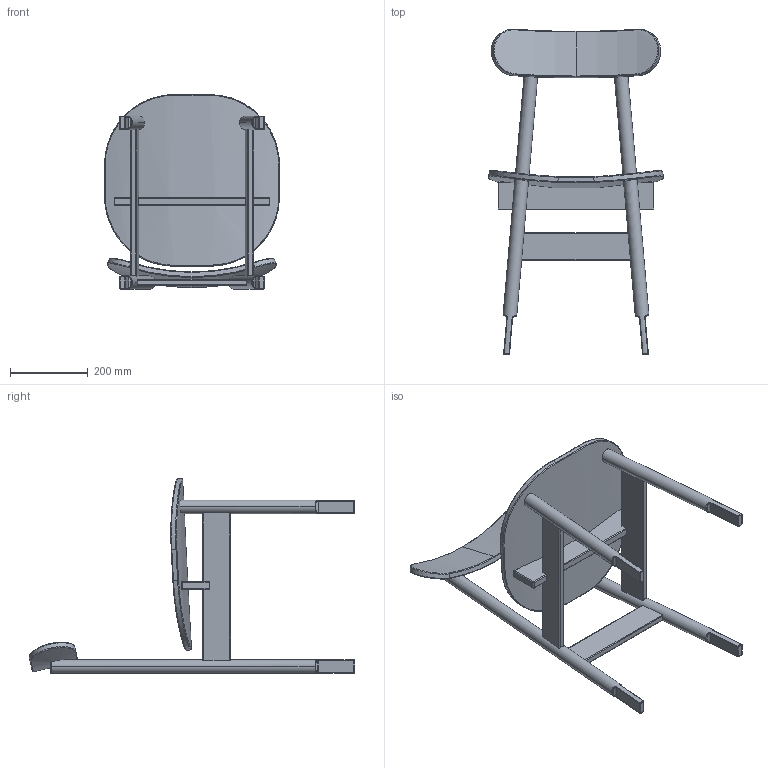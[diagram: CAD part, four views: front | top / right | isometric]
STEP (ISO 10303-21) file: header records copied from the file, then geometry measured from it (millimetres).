
FILE_DESCRIPTION (( 'STEP AP203' ), '1' );
FILE_NAME ('DINER CHAIR.STEP', '2025-08-29T09:36:13', ( '' ), ( '' ), 'SwSTEP 2.0', 'SolidWorks 2025', '' );
FILE_SCHEMA (( 'CONFIG_CONTROL_DESIGN' ));
Length unit declared in the file: millimetre
Products named in the file (2): Group1^stolica DINER_defeature; DINER CHAIR
Assembly tree (1 placements, depth 2):
  DINER CHAIR
    Group1^stolica DINER_defeature
Bounding box: 448.33 x 834.97 x 499.34 mm (x, y, z)
Volume: 7121346.2 mm3; surface area: 956139.9 mm2
Topology: 1 solids, 1 shells, 255 faces, 628 edges, 360 vertices
Faces by surface type: cylinder 90, plane 67, bspline 54, sphere 24, torus 20
Entity records: 14477 total; most frequent: CARTESIAN_POINT 8924, ORIENTED_EDGE 1216, DIRECTION 1018, EDGE_CURVE 608, AXIS2_PLACEMENT_3D 393, VERTEX_POINT 356, EDGE_LOOP 264, FACE_OUTER_BOUND 255
